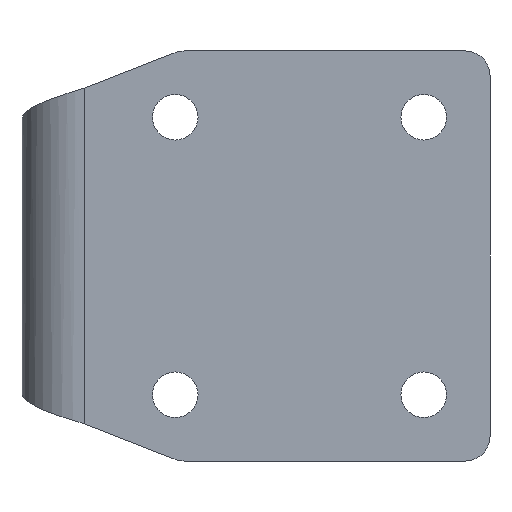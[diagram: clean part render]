
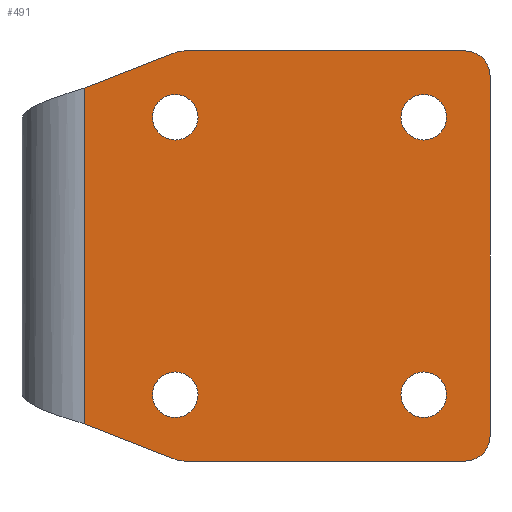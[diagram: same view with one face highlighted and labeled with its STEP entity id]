
A CAD part, front view. The second image highlights one B-rep face of the part: STEP entity #491.
In plain terms, the highlighted planar face has unit normal (0, -1, 0).
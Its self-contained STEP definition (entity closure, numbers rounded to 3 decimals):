
#46=CIRCLE('',#537,2.75);
#47=CIRCLE('',#538,2.75);
#48=CIRCLE('',#539,2.75);
#49=CIRCLE('',#540,2.75);
#50=CIRCLE('',#541,3.);
#51=CIRCLE('',#542,3.);
#52=CIRCLE('',#543,3.);
#53=CIRCLE('',#544,3.);
#122=ORIENTED_EDGE('',*,*,#235,.T.);
#123=ORIENTED_EDGE('',*,*,#236,.T.);
#124=ORIENTED_EDGE('',*,*,#237,.T.);
#125=ORIENTED_EDGE('',*,*,#238,.T.);
#126=ORIENTED_EDGE('',*,*,#230,.T.);
#127=ORIENTED_EDGE('',*,*,#239,.T.);
#128=ORIENTED_EDGE('',*,*,#232,.T.);
#129=ORIENTED_EDGE('',*,*,#218,.F.);
#130=ORIENTED_EDGE('',*,*,#240,.T.);
#131=ORIENTED_EDGE('',*,*,#241,.T.);
#132=ORIENTED_EDGE('',*,*,#224,.F.);
#133=ORIENTED_EDGE('',*,*,#242,.T.);
#134=ORIENTED_EDGE('',*,*,#222,.T.);
#135=ORIENTED_EDGE('',*,*,#243,.T.);
#218=EDGE_CURVE('',#271,#273,#318,.T.);
#222=EDGE_CURVE('',#277,#276,#322,.T.);
#224=EDGE_CURVE('',#278,#279,#324,.T.);
#230=EDGE_CURVE('',#285,#284,#330,.T.);
#232=EDGE_CURVE('',#286,#273,#332,.T.);
#235=EDGE_CURVE('',#288,#288,#46,.T.);
#236=EDGE_CURVE('',#289,#289,#47,.T.);
#237=EDGE_CURVE('',#290,#290,#48,.T.);
#238=EDGE_CURVE('',#291,#291,#49,.T.);
#239=EDGE_CURVE('',#284,#286,#50,.F.);
#240=EDGE_CURVE('',#271,#292,#335,.T.);
#241=EDGE_CURVE('',#292,#279,#51,.F.);
#242=EDGE_CURVE('',#278,#277,#52,.F.);
#243=EDGE_CURVE('',#276,#285,#53,.F.);
#271=VERTEX_POINT('',#832);
#273=VERTEX_POINT('',#927);
#276=VERTEX_POINT('',#938);
#277=VERTEX_POINT('',#940);
#278=VERTEX_POINT('',#944);
#279=VERTEX_POINT('',#945);
#284=VERTEX_POINT('',#956);
#285=VERTEX_POINT('',#958);
#286=VERTEX_POINT('',#962);
#288=VERTEX_POINT('',#968);
#289=VERTEX_POINT('',#970);
#290=VERTEX_POINT('',#972);
#291=VERTEX_POINT('',#974);
#292=VERTEX_POINT('',#977);
#318=LINE('',#930,#354);
#322=LINE('',#939,#358);
#324=LINE('',#943,#360);
#330=LINE('',#957,#366);
#332=LINE('',#961,#368);
#335=LINE('',#976,#371);
#354=VECTOR('',#611,1000.);
#358=VECTOR('',#619,1000.);
#360=VECTOR('',#623,1000.);
#366=VECTOR('',#631,1000.);
#368=VECTOR('',#635,1000.);
#371=VECTOR('',#650,1000.);
#387=EDGE_LOOP('',(#122));
#388=EDGE_LOOP('',(#123));
#389=EDGE_LOOP('',(#124));
#390=EDGE_LOOP('',(#125));
#391=EDGE_LOOP('',(#126,#127,#128,#129,#130,#131,#132,#133,#134,#135));
#433=FACE_BOUND('',#387,.T.);
#434=FACE_BOUND('',#388,.T.);
#435=FACE_BOUND('',#389,.T.);
#436=FACE_BOUND('',#390,.T.);
#437=FACE_BOUND('',#391,.T.);
#475=PLANE('',#536);
#491=ADVANCED_FACE('',(#433,#434,#435,#436,#437),#475,.F.);
#536=AXIS2_PLACEMENT_3D('',#966,#638,#639);
#537=AXIS2_PLACEMENT_3D('',#967,#640,#641);
#538=AXIS2_PLACEMENT_3D('',#969,#642,#643);
#539=AXIS2_PLACEMENT_3D('',#971,#644,#645);
#540=AXIS2_PLACEMENT_3D('',#973,#646,#647);
#541=AXIS2_PLACEMENT_3D('',#975,#648,#649);
#542=AXIS2_PLACEMENT_3D('',#978,#651,#652);
#543=AXIS2_PLACEMENT_3D('',#979,#653,#654);
#544=AXIS2_PLACEMENT_3D('',#980,#655,#656);
#611=DIRECTION('',(0.,0.,1.));
#619=DIRECTION('',(0.,0.,1.));
#623=DIRECTION('',(-1.,0.,0.));
#631=DIRECTION('',(-1.,0.,0.));
#635=DIRECTION('',(-0.932,0.,-0.363));
#638=DIRECTION('',(0.,1.,0.));
#639=DIRECTION('',(0.,0.,1.));
#640=DIRECTION('',(0.,1.,0.));
#641=DIRECTION('',(0.,0.,1.));
#642=DIRECTION('',(0.,1.,0.));
#643=DIRECTION('',(0.,0.,1.));
#644=DIRECTION('',(0.,1.,0.));
#645=DIRECTION('',(0.,0.,1.));
#646=DIRECTION('',(0.,1.,0.));
#647=DIRECTION('',(0.,0.,1.));
#648=DIRECTION('',(0.,1.,0.));
#649=DIRECTION('',(0.,0.,1.));
#650=DIRECTION('',(0.932,0.,-0.363));
#651=DIRECTION('',(0.,1.,0.));
#652=DIRECTION('',(0.,0.,1.));
#653=DIRECTION('',(0.,1.,0.));
#654=DIRECTION('',(0.,0.,1.));
#655=DIRECTION('',(0.,1.,0.));
#656=DIRECTION('',(0.,0.,1.));
#832=CARTESIAN_POINT('',(-49.,0.,4.485));
#927=CARTESIAN_POINT('',(-49.,0.,45.015));
#930=CARTESIAN_POINT('',(-49.,0.,0.));
#938=CARTESIAN_POINT('',(0.,0.,46.5));
#939=CARTESIAN_POINT('',(0.,0.,0.));
#940=CARTESIAN_POINT('',(0.,0.,3.));
#943=CARTESIAN_POINT('',(0.,0.,0.));
#944=CARTESIAN_POINT('',(-3.,0.,0.));
#945=CARTESIAN_POINT('',(-36.936,0.,0.));
#956=CARTESIAN_POINT('',(-36.936,0.,49.5));
#957=CARTESIAN_POINT('',(0.,0.,49.5));
#958=CARTESIAN_POINT('',(-3.,0.,49.5));
#961=CARTESIAN_POINT('',(-21.709,0.,55.659));
#962=CARTESIAN_POINT('',(-38.026,0.,49.295));
#966=CARTESIAN_POINT('',(0.,0.,0.));
#967=CARTESIAN_POINT('',(-8.,0.,41.5));
#968=CARTESIAN_POINT('',(-8.,0.,44.25));
#969=CARTESIAN_POINT('',(-8.,0.,8.));
#970=CARTESIAN_POINT('',(-8.,0.,10.75));
#971=CARTESIAN_POINT('',(-38.,0.,8.));
#972=CARTESIAN_POINT('',(-38.,0.,10.75));
#973=CARTESIAN_POINT('',(-38.,0.,41.5));
#974=CARTESIAN_POINT('',(-38.,0.,44.25));
#975=CARTESIAN_POINT('',(-36.936,0.,46.5));
#976=CARTESIAN_POINT('',(-4.952,0.,-12.695));
#977=CARTESIAN_POINT('',(-38.026,0.,0.205));
#978=CARTESIAN_POINT('',(-36.936,0.,3.));
#979=CARTESIAN_POINT('',(-3.,0.,3.));
#980=CARTESIAN_POINT('',(-3.,0.,46.5));
